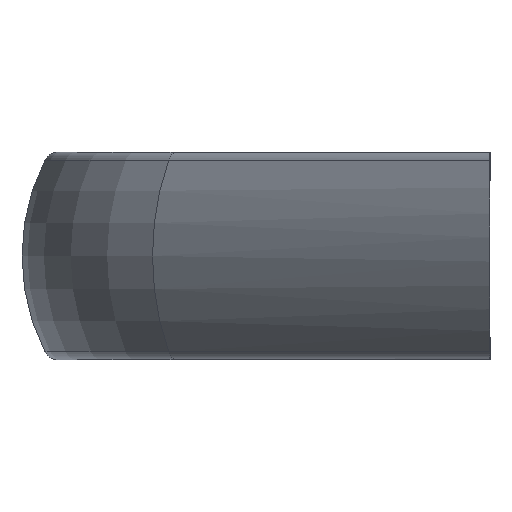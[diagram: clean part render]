
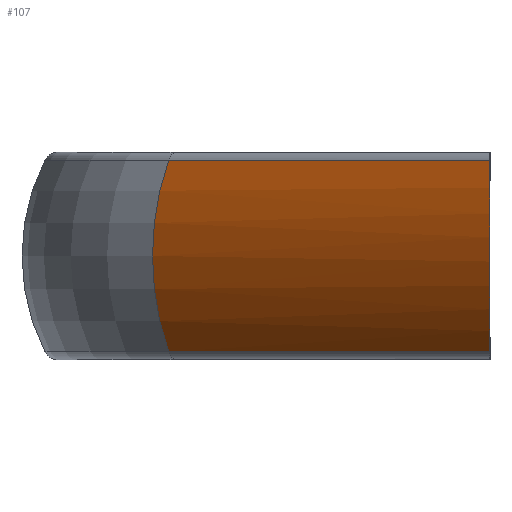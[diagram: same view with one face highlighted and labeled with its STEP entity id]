
A CAD part, left-side view. The second image highlights one B-rep face of the part: STEP entity #107.
In plain terms, the highlighted cylindrical face has radius 28.5 mm (diameter 57 mm), a partial arc.
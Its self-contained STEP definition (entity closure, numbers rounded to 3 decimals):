
#107 = ADVANCED_FACE( '', ( #181 ), #182, .T. );
#181 = FACE_OUTER_BOUND( '', #263, .T. );
#182 = CYLINDRICAL_SURFACE( '', #264, 28.5 );
#263 = EDGE_LOOP( '', ( #512, #513, #514, #515 ) );
#264 = AXIS2_PLACEMENT_3D( '', #516, #517, #518 );
#512 = ORIENTED_EDGE( '', *, *, #644, .F. );
#513 = ORIENTED_EDGE( '', *, *, #643, .T. );
#514 = ORIENTED_EDGE( '', *, *, #623, .F. );
#515 = ORIENTED_EDGE( '', *, *, #645, .F. );
#516 = CARTESIAN_POINT( '', ( -248.43, -69.007, 0. ) );
#517 = DIRECTION( '', ( -0.707, -0.707, 0. ) );
#518 = DIRECTION( '', ( -0.707, 0.707, 0. ) );
#623 = EDGE_CURVE( '', #748, #751, #752, .T. );
#643 = EDGE_CURVE( '', #777, #751, #779, .T. );
#644 = EDGE_CURVE( '', #777, #780, #781, .T. );
#645 = EDGE_CURVE( '', #780, #748, #782, .T. );
#748 = VERTEX_POINT( '', #904 );
#751 = VERTEX_POINT( '', #907 );
#752 = CIRCLE( '', #908, 28.5 );
#777 = VERTEX_POINT( '', #939 );
#779 = LINE( '', #941, #942 );
#780 = VERTEX_POINT( '', #943 );
#781 = ELLIPSE( '', #944, 40.305, 28.5 );
#782 = LINE( '', #945, #946 );
#904 = CARTESIAN_POINT( '', ( -172.117, 43.242, -12.906 ) );
#907 = CARTESIAN_POINT( '', ( -172.117, 43.242, 12.906 ) );
#908 = AXIS2_PLACEMENT_3D( '', #1088, #1089, #1090 );
#939 = CARTESIAN_POINT( '', ( -215.359, 0., 12.906 ) );
#941 = CARTESIAN_POINT( '', ( -266.398, -51.039, 12.906 ) );
#942 = VECTOR( '', #1136, 1000. );
#943 = CARTESIAN_POINT( '', ( -215.359, 0., -12.906 ) );
#944 = AXIS2_PLACEMENT_3D( '', #1137, #1138, #1139 );
#945 = CARTESIAN_POINT( '', ( -266.398, -51.039, -12.906 ) );
#946 = VECTOR( '', #1140, 1000. );
#1088 = CARTESIAN_POINT( '', ( -154.149, 25.274, 0. ) );
#1089 = DIRECTION( '', ( 0.707, 0.707, 0. ) );
#1090 = DIRECTION( '', ( 0., 0., -1. ) );
#1136 = DIRECTION( '', ( 0.707, 0.707, 0. ) );
#1137 = CARTESIAN_POINT( '', ( -179.423, 0., 0. ) );
#1138 = DIRECTION( '', ( 0., -1., 0. ) );
#1139 = DIRECTION( '', ( 1., 0., 0. ) );
#1140 = DIRECTION( '', ( 0.707, 0.707, 0. ) );
